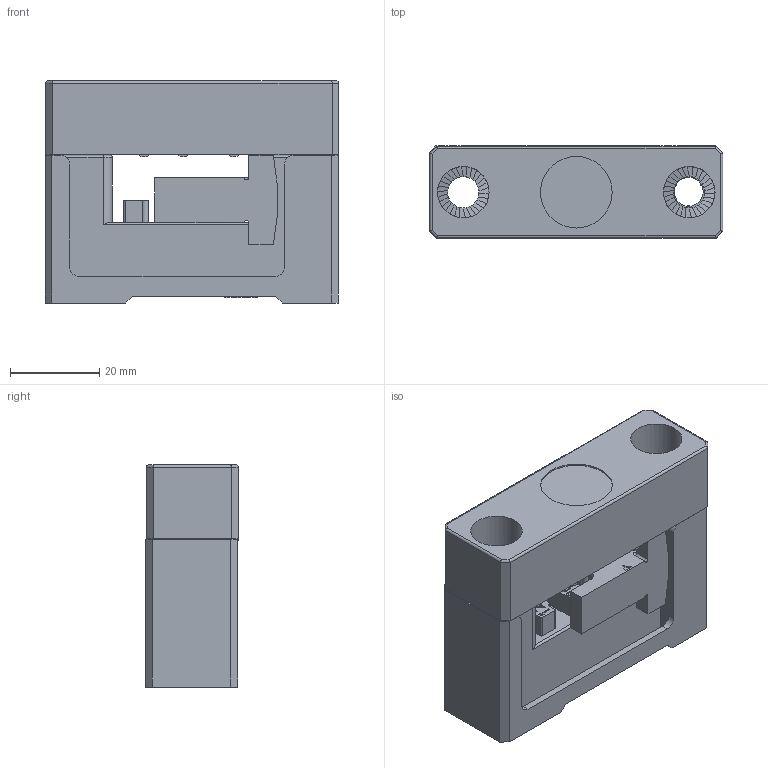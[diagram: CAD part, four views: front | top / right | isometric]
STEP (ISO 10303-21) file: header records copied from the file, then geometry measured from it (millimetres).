
FILE_DESCRIPTION (( 'STEP AP214' ), '1' );
FILE_NAME ('52601.STEP', '2021-03-01T01:39:46', ( '' ), ( '' ), 'SwSTEP 2.0', 'SolidWorks 2017', '' );
FILE_SCHEMA (( 'AUTOMOTIVE_DESIGN' ));
Length unit declared in the file: millimetre
Products named in the file (2): 52601
Bounding box: 65.64 x 20.66 x 49.63 mm (x, y, z)
Volume: 40668.8 mm3; surface area: 24724.1 mm2
Topology: 7 solids, 10 shells, 877 faces, 2406 edges, 1586 vertices
Faces by surface type: plane 736, cylinder 116, bspline 18, torus 4, cone 3
Full cylindrical faces by diameter (mm): 6.5 x1, 7 x3, 9.7 x1, 10 x1, 11.5 x2, 16 x1
Entity records: 37568 total; most frequent: CARTESIAN_POINT 6246, ORIENTED_EDGE 4772, DIRECTION 4150, EDGE_CURVE 2386, LINE 1978, VECTOR 1978, VERTEX_POINT 1579, AXIS2_PLACEMENT_3D 1086
